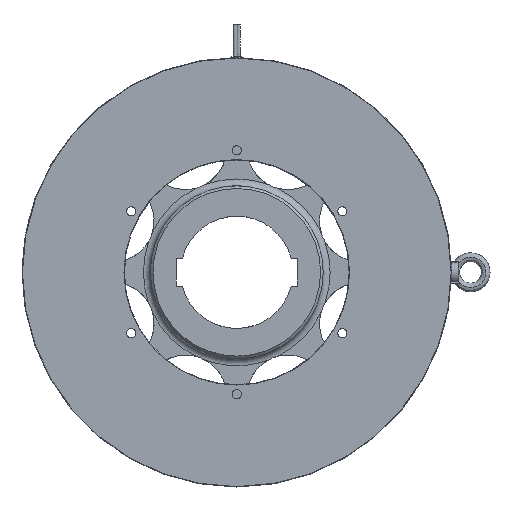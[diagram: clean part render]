
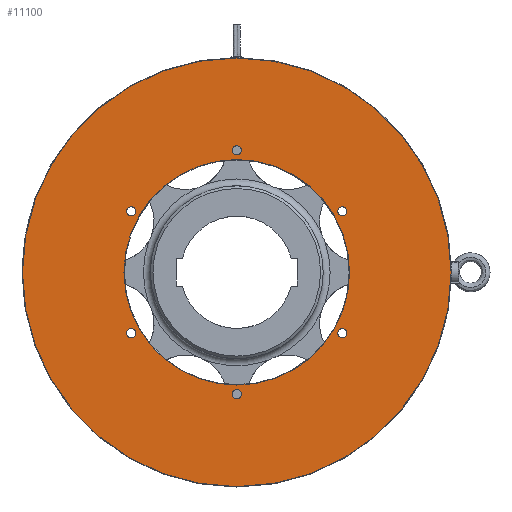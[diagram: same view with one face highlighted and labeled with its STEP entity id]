
A CAD part, left-side view. The second image highlights one B-rep face of the part: STEP entity #11100.
In plain terms, the highlighted planar face has unit normal (-1, 0, 0).
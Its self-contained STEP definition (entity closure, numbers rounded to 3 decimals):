
#164=FACE_BOUND('',#2146,.T.);
#165=FACE_BOUND('',#2147,.T.);
#166=FACE_BOUND('',#2148,.T.);
#167=FACE_BOUND('',#2149,.T.);
#168=FACE_BOUND('',#2150,.T.);
#169=FACE_BOUND('',#2151,.T.);
#170=FACE_BOUND('',#2152,.T.);
#1303=PLANE('',#11869);
#1551=FACE_OUTER_BOUND('',#2145,.T.);
#2145=EDGE_LOOP('',(#7263,#7264));
#2146=EDGE_LOOP('',(#7265));
#2147=EDGE_LOOP('',(#7266));
#2148=EDGE_LOOP('',(#7267));
#2149=EDGE_LOOP('',(#7268));
#2150=EDGE_LOOP('',(#7269));
#2151=EDGE_LOOP('',(#7270));
#2152=EDGE_LOOP('',(#7271));
#2956=CIRCLE('',#11842,130.5);
#2959=CIRCLE('',#11847,5.25);
#2960=CIRCLE('',#11849,5.25);
#2961=CIRCLE('',#11851,5.25);
#2962=CIRCLE('',#11853,5.25);
#2963=CIRCLE('',#11855,5.25);
#2964=CIRCLE('',#11857,5.25);
#2965=CIRCLE('',#11859,248.);
#2966=CIRCLE('',#11860,248.);
#4154=VERTEX_POINT('',#18484);
#4157=VERTEX_POINT('',#18494);
#4158=VERTEX_POINT('',#18498);
#4159=VERTEX_POINT('',#18502);
#4160=VERTEX_POINT('',#18506);
#4161=VERTEX_POINT('',#18510);
#4162=VERTEX_POINT('',#18514);
#4163=VERTEX_POINT('',#18518);
#4164=VERTEX_POINT('',#18519);
#5357=EDGE_CURVE('',#4154,#4154,#2956,.T.);
#5362=EDGE_CURVE('',#4157,#4157,#2959,.T.);
#5364=EDGE_CURVE('',#4158,#4158,#2960,.T.);
#5366=EDGE_CURVE('',#4159,#4159,#2961,.T.);
#5368=EDGE_CURVE('',#4160,#4160,#2962,.T.);
#5370=EDGE_CURVE('',#4161,#4161,#2963,.T.);
#5372=EDGE_CURVE('',#4162,#4162,#2964,.T.);
#5373=EDGE_CURVE('',#4163,#4164,#2965,.T.);
#5374=EDGE_CURVE('',#4164,#4163,#2966,.T.);
#7263=ORIENTED_EDGE('',*,*,#5373,.T.);
#7264=ORIENTED_EDGE('',*,*,#5374,.T.);
#7265=ORIENTED_EDGE('',*,*,#5372,.T.);
#7266=ORIENTED_EDGE('',*,*,#5370,.T.);
#7267=ORIENTED_EDGE('',*,*,#5368,.T.);
#7268=ORIENTED_EDGE('',*,*,#5366,.T.);
#7269=ORIENTED_EDGE('',*,*,#5364,.T.);
#7270=ORIENTED_EDGE('',*,*,#5362,.T.);
#7271=ORIENTED_EDGE('',*,*,#5357,.F.);
#11100=ADVANCED_FACE('',(#1551,#164,#165,#166,#167,#168,#169,#170),#1303,
 .T.);
#11842=AXIS2_PLACEMENT_3D('',#18486,#13796,#13797);
#11847=AXIS2_PLACEMENT_3D('',#18496,#13808,#13809);
#11849=AXIS2_PLACEMENT_3D('',#18500,#13813,#13814);
#11851=AXIS2_PLACEMENT_3D('',#18504,#13818,#13819);
#11853=AXIS2_PLACEMENT_3D('',#18508,#13823,#13824);
#11855=AXIS2_PLACEMENT_3D('',#18512,#13828,#13829);
#11857=AXIS2_PLACEMENT_3D('',#18516,#13833,#13834);
#11859=AXIS2_PLACEMENT_3D('',#18520,#13837,#13838);
#11860=AXIS2_PLACEMENT_3D('',#18521,#13839,#13840);
#11869=AXIS2_PLACEMENT_3D('',#18542,#13863,#13864);
#13796=DIRECTION('center_axis',(-1.,0.,0.));
#13797=DIRECTION('ref_axis',(0.,-1.,0.));
#13808=DIRECTION('center_axis',(1.,0.,0.));
#13809=DIRECTION('ref_axis',(0.,0.,
-1.));
#13813=DIRECTION('center_axis',(1.,0.,0.));
#13814=DIRECTION('ref_axis',(0.,0.,
-1.));
#13818=DIRECTION('center_axis',(1.,0.,0.));
#13819=DIRECTION('ref_axis',(0.,0.,
-1.));
#13823=DIRECTION('center_axis',(1.,0.,0.));
#13824=DIRECTION('ref_axis',(0.,0.,
-1.));
#13828=DIRECTION('center_axis',(1.,0.,0.));
#13829=DIRECTION('ref_axis',(0.,0.,
-1.));
#13833=DIRECTION('center_axis',(1.,0.,0.));
#13834=DIRECTION('ref_axis',(0.,0.,
-1.));
#13837=DIRECTION('center_axis',(-1.,0.,0.));
#13838=DIRECTION('ref_axis',(0.,1.,0.));
#13839=DIRECTION('center_axis',(-1.,0.,0.));
#13840=DIRECTION('ref_axis',(0.,1.,0.));
#13863=DIRECTION('center_axis',(-1.,0.,0.));
#13864=DIRECTION('ref_axis',(0.,0.,
1.));
#18484=CARTESIAN_POINT('',(-61.926,130.5,0.));
#18486=CARTESIAN_POINT('Origin',(-61.926,0.,
0.));
#18494=CARTESIAN_POINT('',(-61.926,122.11,75.75));
#18496=CARTESIAN_POINT('Origin',(-61.926,122.11,70.5));
#18498=CARTESIAN_POINT('',(-61.926,0.,-135.75));
#18500=CARTESIAN_POINT('Origin',(-61.926,0.,
-141.));
#18502=CARTESIAN_POINT('',(-61.926,-122.11,75.75));
#18504=CARTESIAN_POINT('Origin',(-61.926,-122.11,70.5));
#18506=CARTESIAN_POINT('',(-61.926,0.,146.25));
#18508=CARTESIAN_POINT('Origin',(-61.926,0.,
141.));
#18510=CARTESIAN_POINT('',(-61.926,-122.11,-65.25));
#18512=CARTESIAN_POINT('Origin',(-61.926,-122.11,-70.5));
#18514=CARTESIAN_POINT('',(-61.926,122.11,-65.25));
#18516=CARTESIAN_POINT('Origin',(-61.926,122.11,-70.5));
#18518=CARTESIAN_POINT('',(-61.926,248.,0.));
#18519=CARTESIAN_POINT('',(-61.926,-248.,0.));
#18520=CARTESIAN_POINT('Origin',(-61.926,0.,
0.));
#18521=CARTESIAN_POINT('Origin',(-61.926,0.,
0.));
#18542=CARTESIAN_POINT('Origin',(-61.926,189.,0.));
